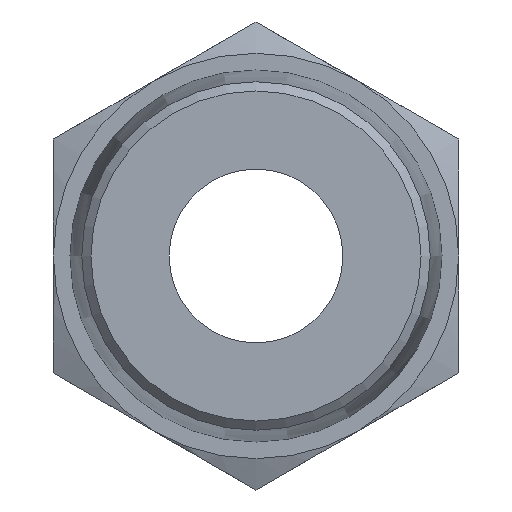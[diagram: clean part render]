
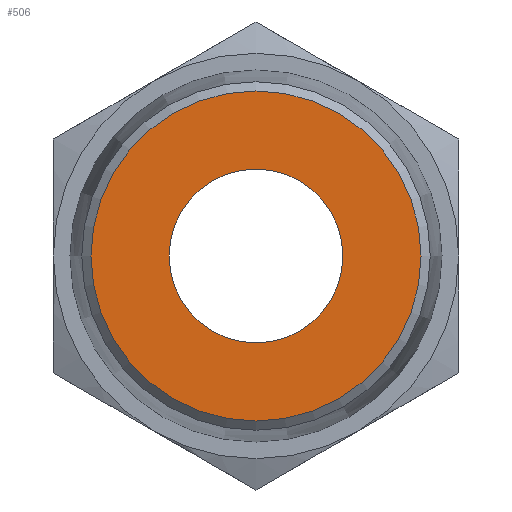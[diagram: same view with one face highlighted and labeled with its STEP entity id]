
A CAD part, front view. The second image highlights one B-rep face of the part: STEP entity #506.
In plain terms, the highlighted planar face has unit normal (0, -1, 0).
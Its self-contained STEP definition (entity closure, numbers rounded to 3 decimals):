
#57=FACE_BOUND('',#124,.T.);
#65=PLANE('',#579);
#84=FACE_OUTER_BOUND('',#123,.T.);
#123=EDGE_LOOP('',(#371));
#124=EDGE_LOOP('',(#372));
#191=CIRCLE('',#560,3.);
#203=CIRCLE('',#578,5.7);
#225=VERTEX_POINT('',#792);
#236=VERTEX_POINT('',#824);
#270=EDGE_CURVE('',#225,#225,#191,.T.);
#286=EDGE_CURVE('',#236,#236,#203,.T.);
#371=ORIENTED_EDGE('',*,*,#286,.F.);
#372=ORIENTED_EDGE('',*,*,#270,.T.);
#506=ADVANCED_FACE('',(#84,#57),#65,.T.);
#560=AXIS2_PLACEMENT_3D('',#793,#634,#635);
#578=AXIS2_PLACEMENT_3D('',#826,#674,#675);
#579=AXIS2_PLACEMENT_3D('',#827,#676,#677);
#634=DIRECTION('center_axis',(0.,1.,0.));
#635=DIRECTION('ref_axis',(1.,0.,0.));
#674=DIRECTION('center_axis',(0.,1.,0.));
#675=DIRECTION('ref_axis',(-1.,0.,0.));
#676=DIRECTION('center_axis',(0.,-1.,0.));
#677=DIRECTION('ref_axis',(0.,0.,-1.));
#792=CARTESIAN_POINT('',(-3.,-7.3,0.));
#793=CARTESIAN_POINT('Origin',(0.,-7.3,0.));
#824=CARTESIAN_POINT('',(5.7,-7.3,0.));
#826=CARTESIAN_POINT('Origin',(0.,-7.3,0.));
#827=CARTESIAN_POINT('Origin',(6.,-7.3,0.));
